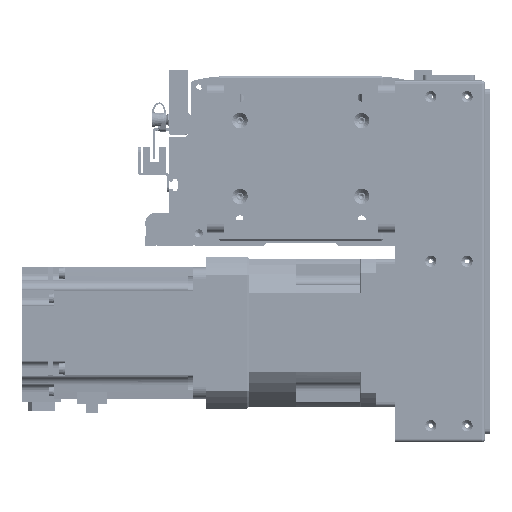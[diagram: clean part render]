
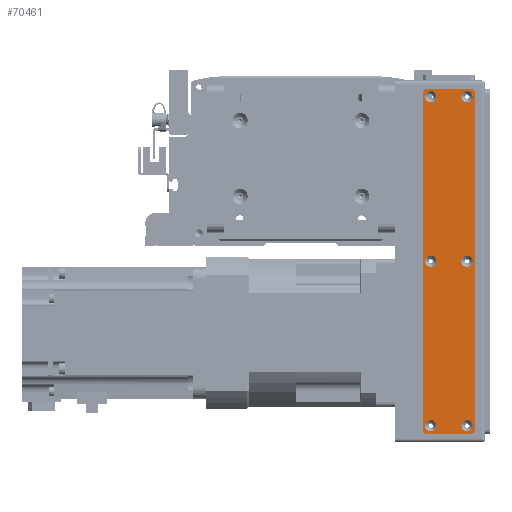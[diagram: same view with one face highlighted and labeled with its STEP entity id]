
A CAD part, front view. The second image highlights one B-rep face of the part: STEP entity #70461.
In plain terms, the highlighted planar face has unit normal (0, -1, 0).
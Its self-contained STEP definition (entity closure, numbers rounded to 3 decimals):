
#1909=FACE_BOUND('',#14703,.T.);
#1910=FACE_BOUND('',#14704,.T.);
#1911=FACE_BOUND('',#14705,.T.);
#1912=FACE_BOUND('',#14706,.T.);
#1913=FACE_BOUND('',#14707,.T.);
#1914=FACE_BOUND('',#14708,.T.);
#5433=PLANE('',#77961);
#10265=FACE_OUTER_BOUND('',#14702,.T.);
#14702=EDGE_LOOP('',(#66266,#66267,#66268,#66269,#66270,#66271,#66272,#66273));
#14703=EDGE_LOOP('',(#66274));
#14704=EDGE_LOOP('',(#66275));
#14705=EDGE_LOOP('',(#66276));
#14706=EDGE_LOOP('',(#66277));
#14707=EDGE_LOOP('',(#66278));
#14708=EDGE_LOOP('',(#66279));
#21210=LINE('',#121175,#27673);
#21211=LINE('',#121179,#27674);
#21212=LINE('',#121183,#27675);
#21213=LINE('',#121186,#27676);
#27673=VECTOR('',#98059,10.);
#27674=VECTOR('',#98062,10.);
#27675=VECTOR('',#98065,10.);
#27676=VECTOR('',#98068,10.);
#30400=CIRCLE('',#77929,3.45);
#30403=CIRCLE('',#77934,3.45);
#30406=CIRCLE('',#77939,3.45);
#30409=CIRCLE('',#77944,3.45);
#30412=CIRCLE('',#77949,3.45);
#30415=CIRCLE('',#77954,3.45);
#30418=CIRCLE('',#77959,3.);
#30420=CIRCLE('',#77962,3.);
#30421=CIRCLE('',#77963,3.);
#30422=CIRCLE('',#77964,3.);
#36891=VERTEX_POINT('',#121105);
#36894=VERTEX_POINT('',#121115);
#36897=VERTEX_POINT('',#121125);
#36900=VERTEX_POINT('',#121135);
#36903=VERTEX_POINT('',#121145);
#36906=VERTEX_POINT('',#121155);
#36909=VERTEX_POINT('',#121165);
#36910=VERTEX_POINT('',#121166);
#36913=VERTEX_POINT('',#121174);
#36914=VERTEX_POINT('',#121176);
#36915=VERTEX_POINT('',#121178);
#36916=VERTEX_POINT('',#121180);
#36917=VERTEX_POINT('',#121182);
#36918=VERTEX_POINT('',#121184);
#46680=EDGE_CURVE('',#36891,#36891,#30400,.T.);
#46685=EDGE_CURVE('',#36894,#36894,#30403,.T.);
#46690=EDGE_CURVE('',#36897,#36897,#30406,.T.);
#46695=EDGE_CURVE('',#36900,#36900,#30409,.T.);
#46700=EDGE_CURVE('',#36903,#36903,#30412,.T.);
#46705=EDGE_CURVE('',#36906,#36906,#30415,.T.);
#46710=EDGE_CURVE('',#36909,#36910,#30418,.T.);
#46714=EDGE_CURVE('',#36909,#36913,#21210,.T.);
#46715=EDGE_CURVE('',#36914,#36913,#30420,.T.);
#46716=EDGE_CURVE('',#36914,#36915,#21211,.T.);
#46717=EDGE_CURVE('',#36916,#36915,#30421,.T.);
#46718=EDGE_CURVE('',#36916,#36917,#21212,.T.);
#46719=EDGE_CURVE('',#36918,#36917,#30422,.T.);
#46720=EDGE_CURVE('',#36918,#36910,#21213,.T.);
#66266=ORIENTED_EDGE('',*,*,#46710,.F.);
#66267=ORIENTED_EDGE('',*,*,#46714,.T.);
#66268=ORIENTED_EDGE('',*,*,#46715,.F.);
#66269=ORIENTED_EDGE('',*,*,#46716,.T.);
#66270=ORIENTED_EDGE('',*,*,#46717,.F.);
#66271=ORIENTED_EDGE('',*,*,#46718,.T.);
#66272=ORIENTED_EDGE('',*,*,#46719,.F.);
#66273=ORIENTED_EDGE('',*,*,#46720,.T.);
#66274=ORIENTED_EDGE('',*,*,#46680,.T.);
#66275=ORIENTED_EDGE('',*,*,#46685,.T.);
#66276=ORIENTED_EDGE('',*,*,#46690,.T.);
#66277=ORIENTED_EDGE('',*,*,#46695,.T.);
#66278=ORIENTED_EDGE('',*,*,#46700,.T.);
#66279=ORIENTED_EDGE('',*,*,#46705,.T.);
#70461=ADVANCED_FACE('',(#10265,#1909,#1910,#1911,#1912,#1913,#1914),#5433,
 .T.);
#77929=AXIS2_PLACEMENT_3D('',#121106,#97979,#97980);
#77934=AXIS2_PLACEMENT_3D('',#121116,#97991,#97992);
#77939=AXIS2_PLACEMENT_3D('',#121126,#98003,#98004);
#77944=AXIS2_PLACEMENT_3D('',#121136,#98015,#98016);
#77949=AXIS2_PLACEMENT_3D('',#121146,#98027,#98028);
#77954=AXIS2_PLACEMENT_3D('',#121156,#98039,#98040);
#77959=AXIS2_PLACEMENT_3D('',#121167,#98051,#98052);
#77961=AXIS2_PLACEMENT_3D('',#121173,#98057,#98058);
#77962=AXIS2_PLACEMENT_3D('',#121177,#98060,#98061);
#77963=AXIS2_PLACEMENT_3D('',#121181,#98063,#98064);
#77964=AXIS2_PLACEMENT_3D('',#121185,#98066,#98067);
#97979=DIRECTION('center_axis',(0.,1.,0.));
#97980=DIRECTION('ref_axis',(1.,0.,0.));
#97991=DIRECTION('center_axis',(0.,1.,0.));
#97992=DIRECTION('ref_axis',(1.,0.,0.));
#98003=DIRECTION('center_axis',(0.,1.,0.));
#98004=DIRECTION('ref_axis',(1.,0.,0.));
#98015=DIRECTION('center_axis',(0.,1.,0.));
#98016=DIRECTION('ref_axis',(1.,0.,0.));
#98027=DIRECTION('center_axis',(0.,1.,0.));
#98028=DIRECTION('ref_axis',(1.,0.,0.));
#98039=DIRECTION('center_axis',(0.,1.,0.));
#98040=DIRECTION('ref_axis',(1.,0.,0.));
#98051=DIRECTION('center_axis',(0.,1.,0.));
#98052=DIRECTION('ref_axis',(-0.707,0.,0.707));
#98057=DIRECTION('center_axis',(0.,-1.,0.));
#98058=DIRECTION('ref_axis',(0.,0.,-1.));
#98059=DIRECTION('',(0.,0.,-1.));
#98060=DIRECTION('center_axis',(0.,1.,0.));
#98061=DIRECTION('ref_axis',(-0.707,0.,-0.707));
#98062=DIRECTION('',(1.,0.,0.));
#98063=DIRECTION('center_axis',(0.,1.,0.));
#98064=DIRECTION('ref_axis',(0.707,0.,-0.707));
#98065=DIRECTION('',(0.,0.,1.));
#98066=DIRECTION('center_axis',(0.,1.,0.));
#98067=DIRECTION('ref_axis',(0.707,0.,0.707));
#98068=DIRECTION('',(-1.,0.,0.));
#121105=CARTESIAN_POINT('',(96.55,-1.5,11.));
#121106=CARTESIAN_POINT('Origin',(100.,-1.5,11.));
#121115=CARTESIAN_POINT('',(-103.45,-1.5,-11.));
#121116=CARTESIAN_POINT('Origin',(-100.,-1.5,-11.));
#121125=CARTESIAN_POINT('',(-3.45,-1.5,11.));
#121126=CARTESIAN_POINT('Origin',(0.,-1.5,11.));
#121135=CARTESIAN_POINT('',(-3.45,-1.5,-11.));
#121136=CARTESIAN_POINT('Origin',(0.,-1.5,-11.));
#121145=CARTESIAN_POINT('',(-103.45,-1.5,11.));
#121146=CARTESIAN_POINT('Origin',(-100.,-1.5,11.));
#121155=CARTESIAN_POINT('',(96.55,-1.5,-11.));
#121156=CARTESIAN_POINT('Origin',(100.,-1.5,-11.));
#121165=CARTESIAN_POINT('',(-105.,-1.5,13.));
#121166=CARTESIAN_POINT('',(-102.,-1.5,16.));
#121167=CARTESIAN_POINT('Origin',(-102.,-1.5,13.));
#121173=CARTESIAN_POINT('Origin',(0.,-1.5,0.));
#121174=CARTESIAN_POINT('',(-105.,-1.5,-13.));
#121175=CARTESIAN_POINT('',(-105.,-1.5,16.));
#121176=CARTESIAN_POINT('',(-102.,-1.5,-16.));
#121177=CARTESIAN_POINT('Origin',(-102.,-1.5,-13.));
#121178=CARTESIAN_POINT('',(102.,-1.5,-16.));
#121179=CARTESIAN_POINT('',(-105.,-1.5,-16.));
#121180=CARTESIAN_POINT('',(105.,-1.5,-13.));
#121181=CARTESIAN_POINT('Origin',(102.,-1.5,-13.));
#121182=CARTESIAN_POINT('',(105.,-1.5,13.));
#121183=CARTESIAN_POINT('',(105.,-1.5,-16.));
#121184=CARTESIAN_POINT('',(102.,-1.5,16.));
#121185=CARTESIAN_POINT('Origin',(102.,-1.5,13.));
#121186=CARTESIAN_POINT('',(105.,-1.5,16.));
